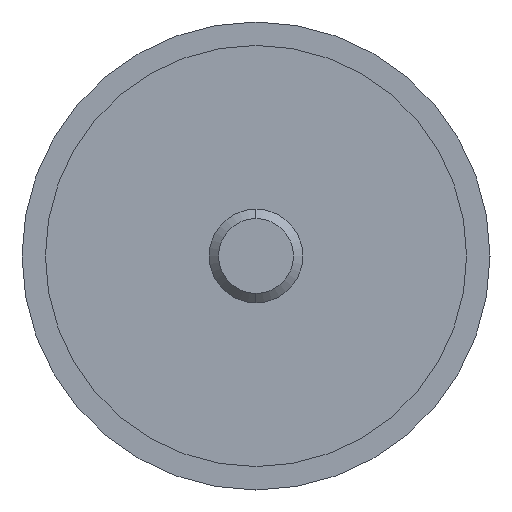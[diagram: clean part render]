
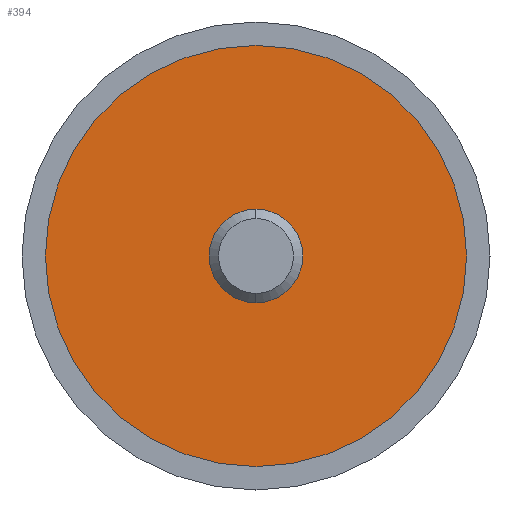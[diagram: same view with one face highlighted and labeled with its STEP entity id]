
A CAD part, left-side view. The second image highlights one B-rep face of the part: STEP entity #394.
In plain terms, the highlighted planar face has unit normal (-1, 0, 0).
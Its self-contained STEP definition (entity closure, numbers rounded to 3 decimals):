
#1 = FACE_OUTER_BOUND ( 'NONE', #88, .T. ) ;
#4 = DIRECTION ( 'NONE',  ( -1., 0., 0. ) ) ;
#41 = DIRECTION ( 'NONE',  ( 1., 0., 0. ) ) ;
#73 = CARTESIAN_POINT ( 'NONE',  ( -9.99, 0., 0. ) ) ;
#88 = EDGE_LOOP ( 'NONE', ( #433, #580 ) ) ;
#104 = CARTESIAN_POINT ( 'NONE',  ( -9.99, 18., 0. ) ) ;
#123 = EDGE_CURVE ( 'NONE', #488, #631, #670, .T. ) ;
#157 = EDGE_LOOP ( 'NONE', ( #311, #174 ) ) ;
#174 = ORIENTED_EDGE ( 'NONE', *, *, #123, .F. ) ;
#180 = CARTESIAN_POINT ( 'NONE',  ( -9.99, 0., 4. ) ) ;
#225 = DIRECTION ( 'NONE',  ( 0., 0., 1. ) ) ;
#227 = EDGE_CURVE ( 'NONE', #631, #488, #273, .T. ) ;
#229 = CARTESIAN_POINT ( 'NONE',  ( -9.99, 0., 18. ) ) ;
#248 = EDGE_CURVE ( 'NONE', #307, #586, #448, .T. ) ;
#254 = PLANE ( 'NONE',  #262 ) ;
#262 = AXIS2_PLACEMENT_3D ( 'NONE', #104, #41, #667 ) ;
#273 = CIRCLE ( 'NONE', #313, 4. ) ;
#307 = VERTEX_POINT ( 'NONE', #552 ) ;
#309 = CARTESIAN_POINT ( 'NONE',  ( -9.99, 0., -4. ) ) ;
#311 = ORIENTED_EDGE ( 'NONE', *, *, #227, .F. ) ;
#313 = AXIS2_PLACEMENT_3D ( 'NONE', #328, #4, #325 ) ;
#325 = DIRECTION ( 'NONE',  ( 0., 0., -1. ) ) ;
#328 = CARTESIAN_POINT ( 'NONE',  ( -9.99, 0., 0. ) ) ;
#344 = AXIS2_PLACEMENT_3D ( 'NONE', #478, #370, #582 ) ;
#370 = DIRECTION ( 'NONE',  ( -1., 0., 0. ) ) ;
#394 = ADVANCED_FACE ( 'NONE', ( #1, #417 ), #254, .F. ) ;
#400 = CIRCLE ( 'NONE', #632, 18. ) ;
#404 = DIRECTION ( 'NONE',  ( 0., 0., -1. ) ) ;
#414 = DIRECTION ( 'NONE',  ( -1., 0., 0. ) ) ;
#417 = FACE_BOUND ( 'NONE', #157, .T. ) ;
#418 = CARTESIAN_POINT ( 'NONE',  ( -9.99, 0., 0. ) ) ;
#421 = DIRECTION ( 'NONE',  ( -1., 0., 0. ) ) ;
#433 = ORIENTED_EDGE ( 'NONE', *, *, #579, .T. ) ;
#448 = CIRCLE ( 'NONE', #344, 18. ) ;
#478 = CARTESIAN_POINT ( 'NONE',  ( -9.99, 0., 0. ) ) ;
#488 = VERTEX_POINT ( 'NONE', #309 ) ;
#552 = CARTESIAN_POINT ( 'NONE',  ( -9.99, 0., -18. ) ) ;
#574 = AXIS2_PLACEMENT_3D ( 'NONE', #418, #414, #404 ) ;
#579 = EDGE_CURVE ( 'NONE', #586, #307, #400, .T. ) ;
#580 = ORIENTED_EDGE ( 'NONE', *, *, #248, .T. ) ;
#582 = DIRECTION ( 'NONE',  ( 0., 0., 1. ) ) ;
#586 = VERTEX_POINT ( 'NONE', #229 ) ;
#631 = VERTEX_POINT ( 'NONE', #180 ) ;
#632 = AXIS2_PLACEMENT_3D ( 'NONE', #73, #421, #225 ) ;
#667 = DIRECTION ( 'NONE',  ( 0., 0., -1. ) ) ;
#670 = CIRCLE ( 'NONE', #574, 4. ) ;
